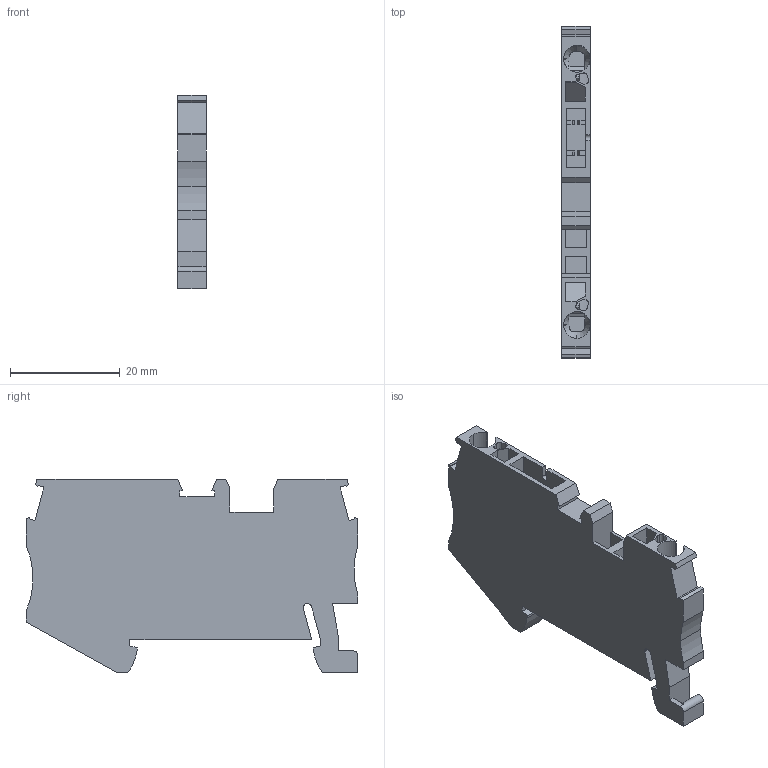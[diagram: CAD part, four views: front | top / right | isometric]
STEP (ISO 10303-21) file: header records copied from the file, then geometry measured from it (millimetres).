
FILE_DESCRIPTION(('TFLEX Exchange Step'),'2;1');
FILE_NAME('10200000_КНЗ_2,5-2-ВСТ.stp', '2024-03-07T13:49:45+03:00',('apanin'),('Unknown organisation'),'TFLEX Exchange 2023.2','T-FLEX CAD','Unknown authorisation');
FILE_SCHEMA( ('AUTOMOTIVE_DESIGN { 1 0 10303 214 1 1 1 1 }') );
Length unit declared in the file: millimetre
Products named in the file (1): Тело_1 - ST_2.5_TG-select:1
Bounding box: 5.15 x 60.4 x 35.25 mm (x, y, z)
Volume: 7379.2 mm3; surface area: 6006.2 mm2
Topology: 1 solids, 1 shells, 429 faces, 1234 edges, 818 vertices
Faces by surface type: plane 213, cylinder 204, cone 12
Entity records: 14591 total; most frequent: CARTESIAN_POINT 2976, ORIENTED_EDGE 2468, DIRECTION 2436, EDGE_CURVE 1234, AXIS2_PLACEMENT_3D 826, VERTEX_POINT 818, VECTOR 784, LINE 784
